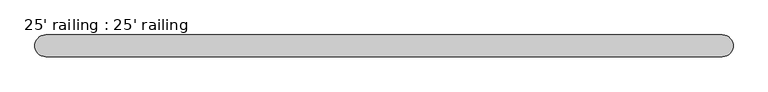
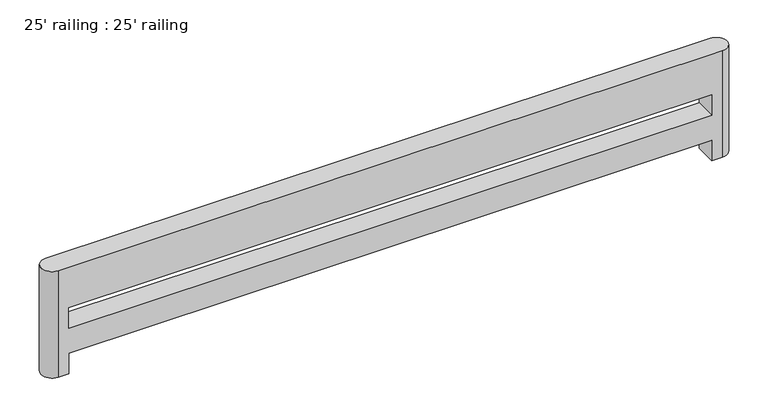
"""IFC4 building model written with IfcOpenShell, lengths in millimetres: railing geometry, 25' railing : 25' railing."""

from ifc_helpers import new_model, si_unit, frame, origin, place, context, project, spatial, circle_curve, source, transform, mapped, element, save
from ifc_brep_helpers import plane_surface, cylinder_surface, advanced_brep


def railing_25_railing_25_railing_c438842d(model_context):
    return source(origin(), model_context, "Body", "AdvancedBrep", [
        advanced_brep(
        [(3149.6, 101.6, 1066.8), (-3149.6, 101.6, 1066.8), (-3149.6, -101.6, 1066.8), (3149.6, -101.6, 1066.8), (3149.6, 101.6, 0.0), (3149.6, -101.6, 0.0), (3048.0, -101.6, 0.0), (3048.0, 101.6, 0.0), (-3149.6, -101.6, 0.0), (-3149.6, 101.6, 0.0), (-3048.0, 101.6, 0.0), (-3048.0, -101.6, 0.0), (3048.0, 101.6, 203.2), (-3048.0, 101.6, 203.2), (-3048.0, 101.6, 660.4), (-3048.0, 101.6, 457.2), (3048.0, 101.6, 457.2), (3048.0, 101.6, 660.4), (-3048.0, -101.6, 203.2), (3048.0, -101.6, 203.2), (-3048.0, -101.6, 457.2), (-3048.0, -101.6, 660.4), (3048.0, -101.6, 660.4), (3048.0, -101.6, 457.2)],
        [
            (0, 1),
            (1, 2, circle_curve(frame((-3149.6, 0.0, 1066.8), z_axis=(0.0, 0.0, 1.0), x_axis=(1.0, 0.0, 0.0)), 101.6)),
            (2, 3),
            (3, 0, circle_curve(frame((3149.6, 0.0, 1066.8), z_axis=(0.0, 0.0, 1.0), x_axis=(1.0, 0.0, 0.0)), 101.6)),
            (4, 5, circle_curve(frame((3149.6, 0.0, 0.0), z_axis=(0.0, 0.0, -1.0), x_axis=(1.0, 0.0, 0.0)), 101.6)),
            (5, 6),
            (6, 7),
            (7, 4),
            (8, 9, circle_curve(frame((-3149.6, 0.0, 0.0), z_axis=(0.0, 0.0, -1.0), x_axis=(1.0, 0.0, 0.0)), 101.6)),
            (9, 10),
            (10, 11),
            (11, 8),
            (0, 4),
            (7, 12),
            (12, 13),
            (13, 10),
            (9, 1),
            (14, 15),
            (15, 16),
            (16, 17),
            (17, 14),
            (8, 2),
            (11, 18),
            (18, 19),
            (19, 6),
            (5, 3),
            (20, 21),
            (21, 22),
            (22, 23),
            (23, 20),
            (19, 12),
            (18, 13),
            (20, 15),
            (14, 21),
            (23, 16),
            (22, 17),
        ],
        [
            plane_surface(frame((-3251.2, 101.6, 1066.8), z_axis=(0.0, 0.0, 1.0), x_axis=(-1.0, 0.0, 0.0))),
            plane_surface(frame((-3251.2, 101.6, 0.0), z_axis=(0.0, 0.0, -1.0), x_axis=(1.0, 0.0, 0.0))),
            plane_surface(frame((3149.6, 101.6, 1066.8), z_axis=(0.0, 1.0, 0.0), x_axis=(0.0, 0.0, -1.0))),
            cylinder_surface(frame((-3149.6, 0.0, 0.0), z_axis=(0.0, 0.0, 1.0), x_axis=(1.0, 0.0, 0.0)), 101.6),
            plane_surface(frame((-3149.6, -101.6, 1066.8), z_axis=(0.0, -1.0, 0.0), x_axis=(0.0, 0.0, -1.0))),
            cylinder_surface(frame((3149.6, 0.0, 0.0), z_axis=(0.0, 0.0, 1.0), x_axis=(1.0, 0.0, 0.0)), 101.6),
            plane_surface(frame((3048.0, -101.6, 0.0), z_axis=(-1.0, 0.0, 0.0), x_axis=(0.0, 1.0, 0.0))),
            plane_surface(frame((3048.0, -101.6, 203.2), z_axis=(0.0, 0.0, -1.0), x_axis=(0.0, 1.0, 0.0))),
            plane_surface(frame((-3048.0, -101.6, 203.2), z_axis=(1.0, 0.0, 0.0), x_axis=(0.0, 1.0, 0.0))),
            plane_surface(frame((-3048.0, -101.6, 660.4), z_axis=(1.0, 0.0, 0.0), x_axis=(0.0, 1.0, 0.0))),
            plane_surface(frame((-3048.0, -101.6, 457.2), z_axis=(0.0, 0.0, 1.0), x_axis=(0.0, 1.0, 0.0))),
            plane_surface(frame((3048.0, -101.6, 457.2), z_axis=(-1.0, 0.0, 0.0), x_axis=(0.0, 1.0, 0.0))),
            plane_surface(frame((3048.0, -101.6, 660.4), z_axis=(0.0, 0.0, -1.0), x_axis=(0.0, 1.0, 0.0))),
        ],
        [
            (0, [[1, 2, 3, 4]]),
            (1, [[5, 6, 7, 8]]),
            (1, [[9, 10, 11, 12]]),
            (2, [[-1, 13, -8, 14, 15, 16, -10, 17], [18, 19, 20, 21]]),
            (3, [[-2, -17, -9, 22]]),
            (4, [[-3, -22, -12, 23, 24, 25, -6, 26], [27, 28, 29, 30]]),
            (5, [[-4, -26, -5, -13]]),
            (6, [[31, -14, -7, -25]]),
            (7, [[-31, -24, 32, -15]]),
            (8, [[-32, -23, -11, -16]]),
            (9, [[33, -18, 34, -27]]),
            (10, [[-33, -30, 35, -19]]),
            (11, [[-35, -29, 36, -20]]),
            (12, [[-34, -21, -36, -28]]),
        ],
    ),
    ])


if __name__ == "__main__":
    model = new_model("IFC4")
    model_context = context("Model", 3, world=origin())
    ifc_project = project(units=[si_unit("LENGTHUNIT", "METRE", prefix="MILLI")], contexts=[model_context])
    site = spatial("IfcSite", under=ifc_project)
    building = spatial("IfcBuilding", under=site)
    placement = place(None, origin())
    railing_25_railing_25_railing_shape = railing_25_railing_25_railing_c438842d(model_context)
    element("IfcRailing", 1, ObjectType="25' railing : 25' railing", at=placement, inside=building, context=model_context, shape_type="MappedRepresentation", body=[
        mapped(railing_25_railing_25_railing_shape, transform((0.0, 0.0, 0.0), x_axis=(1.0, 0.0, 0.0), y_axis=(0.0, 1.0, 0.0), z_axis=(0.0, 0.0, 1.0))),
    ])
    save(model, "model.ifc")
